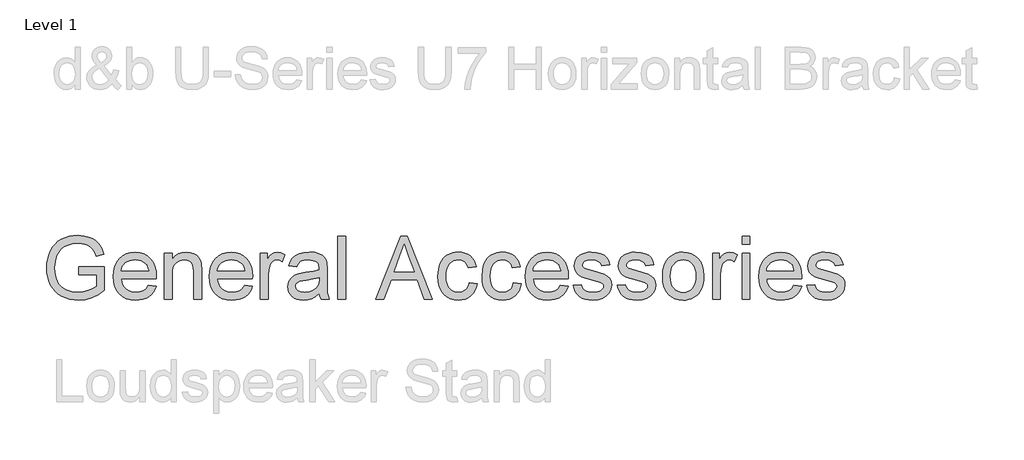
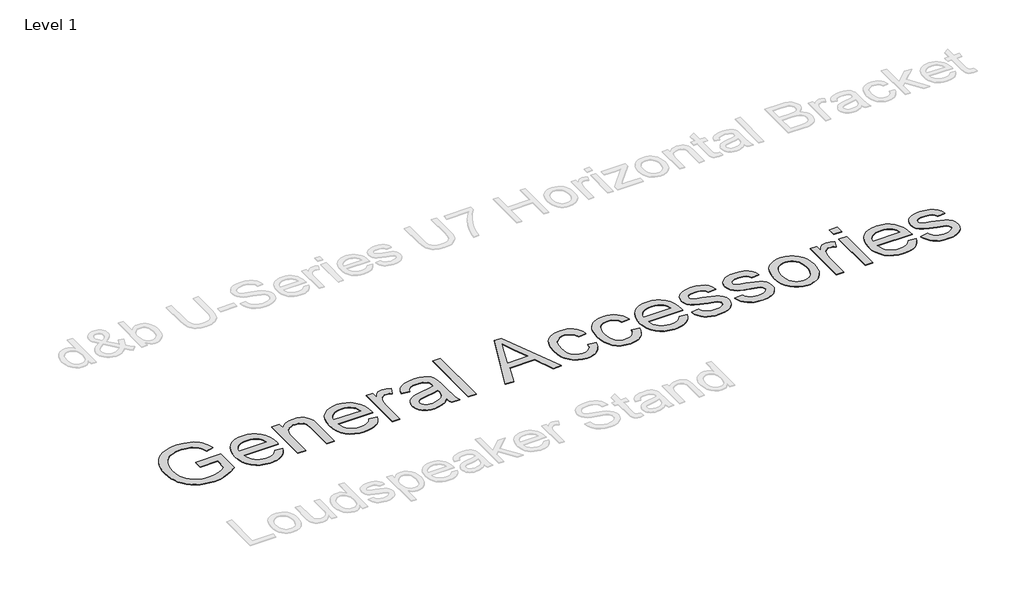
# One storey, part 2 of 29: 1 proxy.
"""IFC4 building model written with IfcOpenShell, lengths in millimetres."""

from ifc_helpers import new_model, si_unit, origin, origin_with_axes, place, context, project, spatial, polyline, outline, extrude, element, save

model = new_model("IFC4")

# Units and contexts
model_context = context("Model", 3, world=origin())
ifc_project = project(units=[si_unit("LENGTHUNIT", "METRE", prefix="MILLI")], contexts=[model_context])

# Site, building, storey
site = spatial("IfcSite", under=ifc_project)
building = spatial("IfcBuilding", under=site)
storey = spatial("IfcBuildingStorey", under=building, Name="Level 1", Elevation=0.0)

# Proxy
placement = place(None, origin())
element("IfcBuildingElementProxy", 1, Name="600mm Arial", ObjectType="600mm Arial", at=placement, inside=storey, context=model_context, shape_type="SweptSolid", body=[
    extrude(outline(polyline([(-20751.11155, -11618.054293), (-20751.11155, -11542.7120604), (-20506.2492941, -11542.7120604), (-20506.2492941, -11768.0029943), (-20565.7542068, -11809.3897187), (-20627.1353177, -11839.0777957), (-20690.2454739, -11856.9568607), (-20754.9375228, -11862.916549), (-20798.214241, -11860.5483087), (-20839.4584112, -11853.4435876), (-20878.6700334, -11841.6023859), (-20915.8491075, -11825.0247035), (-20949.7954186, -11803.9588608), (-20979.3087517, -11778.653178), (-21004.3891067, -11749.1076553), (-21025.0364837, -11715.3222926), (-21041.1635106, -11678.3777432), (-21052.6828156, -11639.3546605), (-21059.5943986, -11598.2530446), (-21061.8982596, -11555.0728955), (-21059.6035956, -11511.8881477), (-21052.7196038, -11470.1841251), (-21041.2462841, -11429.9608274), (-21025.1836365, -11391.2182548), (-21004.8167695, -11355.6578614), (-20980.4307917, -11324.9811016), (-20952.0257032, -11299.1879752), (-20919.6015038, -11278.2784823), (-20883.861768, -11262.1192656), (-20845.51007, -11250.576968), (-20804.5464098, -11243.6515895), (-20760.9707875, -11241.34313), (-20698.9090949, -11246.695813), (-20643.1013963, -11262.7538621), (-20618.1819896, -11274.5076918), (-20596.1044714, -11288.3584489), (-20576.8688416, -11304.3061334), (-20560.4751001, -11322.3507453), (-20534.1163552, -11366.367826), (-20514.9313091, -11422.046766), (-20584.3874298, -11441.6180881), (-20599.8936559, -11401.9052268), (-20618.7476082, -11371.9412383), (-20643.6900075, -11349.3532838), (-20677.4615746, -11331.7685244), (-20717.726259, -11320.456153), (-20762.1480099, -11316.6853626), (-20814.1481299, -11320.7504586), (-20858.606669, -11332.9457468), (-20895.3580804, -11351.7445167), (-20924.236817, -11375.6200582), (-20946.4017072, -11403.3399665), (-20963.0115793, -11433.671837), (-20980.669915, -11490.5463935), (-20986.556027, -11551.9826867), (-20984.7855949, -11589.6032192), (-20979.4742986, -11624.0323754), (-20970.622138, -11655.2701554), (-20958.2291133, -11683.316559), (-20942.4561728, -11708.0658202), (-20923.4642648, -11729.412173), (-20901.2533893, -11747.3556173), (-20875.8235464, -11761.8961531), (-20848.365754, -11773.1303496), (-20820.07103, -11781.1547756), (-20790.9393746, -11785.9694312), (-20760.9707875, -11787.5743164), (-20708.7867265, -11782.7366682), (-20657.8902525, -11768.2237235), (-20613.6892308, -11748.229337), (-20581.5915267, -11726.9473636), (-20581.5915267, -11618.054293), (-20751.11155, -11618.054293)])), origin_with_axes(), (0.0, 0.0, 1.0), 5.0),
    extrude(outline(polyline([(-20083.3321524, -11721.6498629), (-20009.4614478, -11731.0676419), (-20020.7876147, -11760.6545514), (-20036.0777101, -11786.7281878), (-20055.331734, -11809.2885512), (-20078.5496865, -11828.3356415), (-20105.4924441, -11843.4647885), (-20135.9208836, -11854.2713221), (-20169.835005, -11860.7552423), (-20207.2348084, -11862.916549), (-20253.9834129, -11859.1871453), (-20295.6368518, -11847.9989341), (-20332.1951251, -11829.3519155), (-20363.6582327, -11803.2460894), (-20388.9593169, -11770.4080228), (-20407.03152, -11731.5642826), (-20417.8748418, -11686.7148689), (-20421.4892824, -11635.8597816), (-20417.8380536, -11583.2802474), (-20406.8843672, -11536.9363131), (-20388.6282232, -11496.8279786), (-20363.0696215, -11462.9552439), (-20331.6892873, -11436.0446759), (-20295.9679456, -11416.8228417), (-20255.9055963, -11405.2897411), (-20211.5022395, -11401.4453743), (-20168.529024, -11405.2805441), (-20129.6668897, -11416.7860535), (-20094.9158367, -11435.9619025), (-20064.2758651, -11462.8080911), (-20039.2644879, -11496.6072494), (-20021.3992185, -11536.6420075), (-20010.6800569, -11582.9123654), (-20007.107003, -11635.4183232), (-20007.5484614, -11655.7254093), (-20346.1470498, -11655.7254093), (-20341.7830496, -11685.7905654), (-20333.105633, -11712.1217192), (-20320.1148001, -11734.7188707), (-20302.8105507, -11753.5820201), (-20282.1493782, -11768.4536497), (-20259.0877756, -11779.0762423), (-20233.625743, -11785.4497979), (-20205.7632804, -11787.5743164), (-20165.6641429, -11783.6379791), (-20131.8925758, -11771.828967), (-20104.4485789, -11751.4115163), (-20083.3321524, -11721.6498629)]), holes=[polyline([(-20346.1470498, -11580.3831767), (-20082.4492356, -11580.3831767), (-20092.6395669, -11540.5783448), (-20101.4043554, -11524.9249659), (-20112.6155592, -11512.1042784), (-20133.1617687, -11496.6532346), (-20156.5406694, -11485.6167748), (-20182.7522616, -11478.9948989), (-20211.7965451, -11476.7876069), (-20238.2886473, -11478.5488419), (-20262.5826546, -11483.8325471), (-20284.6785669, -11492.6387223), (-20304.5763843, -11504.9673677), (-20321.2736284, -11520.2482661), (-20333.7678206, -11537.9112004), (-20342.0589611, -11557.9561706), (-20346.1470498, -11580.3831767)])]), origin_with_axes(), (0.0, 0.0, 1.0), 5.0),
    extrude(outline(polyline([(-19931.7647704, -11853.4987699), (-19931.7647704, -11410.8631533), (-19856.4225378, -11410.8631533), (-19856.4225378, -11472.6673285), (-19830.2477338, -11441.5077235), (-19798.8122173, -11419.2508628), (-19762.1159883, -11405.8967464), (-19720.1590468, -11401.4453743), (-19683.0213594, -11405.0322237), (-19649.0106689, -11415.7927721), (-19620.6469671, -11432.3842501), (-19600.4502455, -11453.4638884), (-19586.7466412, -11478.9765048), (-19577.862291, -11508.8669169), (-19573.8891655, -11581.7075519), (-19573.8891655, -11853.4987699), (-19649.2313981, -11853.4987699), (-19649.2313981, -11591.861095), (-19651.4019019, -11552.9023917), (-19657.9134132, -11525.2008774), (-19669.9247603, -11505.3536438), (-19688.5947716, -11489.9577823), (-19712.5254954, -11480.0801507), (-19740.3189801, -11476.7876069), (-19763.1966417, -11478.6362139), (-19784.4464254, -11484.182035), (-19804.0683313, -11493.4250701), (-19822.0623594, -11506.3653193), (-19837.0949375, -11524.4743105), (-19847.8324932, -11549.2235717), (-19854.2750266, -11580.613103), (-19856.4225378, -11618.6429042), (-19856.4225378, -11853.4987699), (-19931.7647704, -11853.4987699)])), origin_with_axes(), (0.0, 0.0, 1.0), 5.0),
    extrude(outline(polyline([(-19160.3898029, -11721.6498629), (-19086.5190983, -11731.0676419), (-19097.8452652, -11760.6545514), (-19113.1353606, -11786.7281878), (-19132.3893845, -11809.2885512), (-19155.607337, -11828.3356415), (-19182.5500946, -11843.4647885), (-19212.9785341, -11854.2713221), (-19246.8926555, -11860.7552423), (-19284.2924589, -11862.916549), (-19331.0410634, -11859.1871453), (-19372.6945023, -11847.9989341), (-19409.2527756, -11829.3519155), (-19440.7158832, -11803.2460894), (-19466.0169674, -11770.4080228), (-19484.0891705, -11731.5642826), (-19494.9324923, -11686.7148689), (-19498.5469329, -11635.8597816), (-19494.8957041, -11583.2802474), (-19483.9420177, -11536.9363131), (-19465.6858737, -11496.8279786), (-19440.127272, -11462.9552439), (-19408.7469378, -11436.0446759), (-19373.0255961, -11416.8228417), (-19332.9632468, -11405.2897411), (-19288.55989, -11401.4453743), (-19245.5866745, -11405.2805441), (-19206.7245402, -11416.7860535), (-19171.9734872, -11435.9619025), (-19141.3335156, -11462.8080911), (-19116.3221384, -11496.6072494), (-19098.456869, -11536.6420075), (-19087.7377074, -11582.9123654), (-19084.1646535, -11635.4183232), (-19084.6061119, -11655.7254093), (-19423.2047003, -11655.7254093), (-19418.8407001, -11685.7905654), (-19410.1632835, -11712.1217192), (-19397.1724506, -11734.7188707), (-19379.8682012, -11753.5820201), (-19359.2070287, -11768.4536497), (-19336.1454261, -11779.0762423), (-19310.6833935, -11785.4497979), (-19282.8209309, -11787.5743164), (-19242.7217934, -11783.6379791), (-19208.9502263, -11771.828967), (-19181.5062294, -11751.4115163), (-19160.3898029, -11721.6498629)]), holes=[polyline([(-19423.2047003, -11580.3831767), (-19159.5068861, -11580.3831767), (-19169.6972174, -11540.5783448), (-19178.4620059, -11524.9249659), (-19189.6732097, -11512.1042784), (-19210.2194192, -11496.6532346), (-19233.5983199, -11485.6167748), (-19259.8099121, -11478.9948989), (-19288.8541956, -11476.7876069), (-19315.3462978, -11478.5488419), (-19339.6403051, -11483.8325471), (-19361.7362174, -11492.6387223), (-19381.6340348, -11504.9673677), (-19398.3312789, -11520.2482661), (-19410.8254711, -11537.9112004), (-19419.1166116, -11557.9561706), (-19423.2047003, -11580.3831767)])]), origin_with_axes(), (0.0, 0.0, 1.0), 5.0),
    extrude(outline(polyline([(-19008.8224209, -11853.4987699), (-19008.8224209, -11410.8631533), (-18942.8979674, -11410.8631533), (-18942.8979674, -11476.3461485), (-18918.5441793, -11438.3807266), (-18896.1033776, -11416.0135013), (-18873.5889995, -11405.087406), (-18849.0144822, -11401.4453743), (-18811.4905187, -11407.2579098), (-18773.377944, -11424.6955164), (-18798.5410724, -11492.2386507), (-18825.0285761, -11480.6503678), (-18851.5160798, -11476.7876069), (-18874.0120638, -11480.503215), (-18894.1168148, -11491.6500395), (-18910.3588049, -11509.3819517), (-18921.266506, -11532.8528229), (-18930.4267677, -11574.9385232), (-18933.4801883, -11620.8501962), (-18933.4801883, -11853.4987699), (-19008.8224209, -11853.4987699)])), origin_with_axes(), (0.0, 0.0, 1.0), 5.0),
    extrude(outline(polyline([(-18443.7556763, -11796.9920955), (-18479.7529295, -11827.8573949), (-18516.8170405, -11848.0541164), (-18555.7941379, -11859.2009409), (-18597.5303503, -11862.916549), (-18631.0765897, -11860.6816659), (-18660.4933538, -11853.9770165), (-18685.7806424, -11842.8026009), (-18706.9384557, -11827.1584191), (-18723.6448968, -11808.0377524), (-18735.578069, -11786.4338822), (-18742.7379723, -11762.3468086), (-18745.1246067, -11735.7765315), (-18741.5193632, -11704.5433501), (-18730.7036325, -11676.1796483), (-18714.0201841, -11651.8994366), (-18692.811787, -11632.9167256), (-18667.8877819, -11618.5693278), (-18640.0575089, -11608.1950556), (-18574.8688194, -11596.8642901), (-18497.8343296, -11584.9449135), (-18444.1971347, -11570.9653976), (-18443.7556763, -11554.1899787), (-18448.9428124, -11520.5655643), (-18455.4267326, -11508.1127588), (-18464.5042208, -11498.566221), (-18480.1943879, -11489.0380773), (-18499.3058576, -11482.2322604), (-18547.7927045, -11476.7876069), (-18592.6743079, -11480.4112445), (-18624.0178539, -11491.2821575), (-18645.3917979, -11511.3869085), (-18660.3645951, -11542.7120604), (-18735.7068277, -11533.2942813), (-18722.6286227, -11492.0914979), (-18703.1124829, -11459.7178823), (-18675.3373923, -11434.959424), (-18637.482335, -11416.6021125), (-18591.1843859, -11405.2345588), (-18538.0806199, -11401.4453743), (-18487.1473576, -11404.7931004), (-18446.7723087, -11414.8362789), (-18416.3300736, -11429.9378348), (-18395.1952529, -11448.4606933), (-18381.1789489, -11471.3613475), (-18372.0922636, -11499.5962906), (-18368.4134437, -11565.5207441), (-18368.4134437, -11659.2570765), (-18364.5874709, -11790.1494904), (-18358.9220882, -11822.5047118), (-18349.5778855, -11853.4987699), (-18424.9201181, -11853.4987699), (-18436.9866476, -11827.3055719), (-18443.7556763, -11796.9920955)]), holes=[polyline([(-18443.7556763, -11646.3076303), (-18494.3762388, -11658.8524063), (-18565.3038875, -11669.4106196), (-18630.1246951, -11681.6243018), (-18646.9920845, -11689.9752231), (-18659.4816783, -11701.4899295), (-18667.2072002, -11715.2855044), (-18669.7823741, -11730.4790308), (-18664.1721737, -11752.8830443), (-18647.3415724, -11771.2403558), (-18619.6584523, -11783.4908263), (-18581.4906953, -11787.5743164), (-18541.0236758, -11783.067762), (-18505.2655459, -11769.5480986), (-18476.2764447, -11749.6272886), (-18456.1165113, -11725.917294), (-18447.1769789, -11701.4899295), (-18444.1971347, -11667.644786), (-18443.7556763, -11646.3076303)])]), origin_with_axes(), (0.0, 0.0, 1.0), 5.0),
    extrude(outline(polyline([(-18264.8178738, -11853.4987699), (-18264.8178738, -11250.760909), (-18189.4756412, -11250.760909), (-18189.4756412, -11853.4987699), (-18264.8178738, -11853.4987699)])), origin_with_axes(), (0.0, 0.0, 1.0), 5.0),
    extrude(outline(polyline([(-17901.6447682, -11853.4987699), (-17661.0499434, -11250.760909), (-17596.8913234, -11250.760909), (-17356.4436514, -11853.4987699), (-17436.0533151, -11853.4987699), (-17504.9208246, -11665.1431884), (-17753.3147478, -11665.1431884), (-17822.1822573, -11853.4987699), (-17901.6447682, -11853.4987699)]), holes=[polyline([(-17725.6500217, -11589.8009558), (-17532.4383978, -11589.8009558), (-17586.8849331, -11441.6180881), (-17629.1177862, -11326.1031417), (-17666.6417497, -11428.6686419), (-17725.6500217, -11589.8009558)])]), origin_with_axes(), (0.0, 0.0, 1.0), 5.0),
    extrude(outline(polyline([(-17002.8354776, -11693.3965256), (-16927.493245, -11702.8143047), (-16935.6878164, -11738.365501), (-16948.4993069, -11769.8240101), (-16965.9277164, -11797.1898321), (-16987.973045, -11820.4629668), (-17013.7063906, -11839.036409), (-17042.1988511, -11852.3031535), (-17073.4504266, -11860.2632001), (-17107.461117, -11862.916549), (-17149.7169627, -11859.2147364), (-17187.6042097, -11848.1092987), (-17221.122858, -11829.6002358), (-17250.2729075, -11803.6875478), (-17273.867939, -11770.8586782), (-17290.7215329, -11731.6010708), (-17300.8336893, -11685.9147256), (-17304.204408, -11633.7996424), (-17298.4470548, -11566.7531488), (-17291.2503633, -11536.5822267), (-17281.1749951, -11508.6461877), (-17268.1519725, -11483.5060518), (-17252.1123175, -11461.7228392), (-17233.0560302, -11443.2965497), (-17210.9831105, -11428.2271835), (-17186.8914383, -11416.510142), (-17161.7788936, -11408.1408266), (-17135.6454764, -11403.1192373), (-17108.4911866, -11401.4453743), (-17075.0645088, -11403.7446367), (-17044.8292073, -11410.6424241), (-17017.7852822, -11422.1387365), (-16993.9327333, -11438.2335738), (-16973.6762309, -11458.559054), (-16957.4204453, -11482.7472952), (-16945.1653763, -11510.7982973), (-16936.9110241, -11542.7120604), (-17012.2532567, -11552.1298395), (-17025.9200728, -11519.2595832), (-17047.2020462, -11495.6967414), (-17074.9219545, -11481.5148905), (-17107.9025754, -11476.7876069), (-17133.5025638, -11479.1144605), (-17156.5917575, -11486.0950214), (-17177.1701566, -11497.7292895), (-17195.2377611, -11514.0172648), (-17209.9484424, -11535.3360264), (-17220.4560718, -11562.0626534), (-17226.7606495, -11594.1971456), (-17228.8621754, -11631.7395032), (-17226.8066348, -11669.8474794), (-17220.6400128, -11702.3544522), (-17210.3623096, -11729.2604216), (-17195.9735251, -11750.5653877), (-17178.2646055, -11766.756794), (-17158.0264973, -11778.3220842), (-17135.2592003, -11785.2612584), (-17109.9627146, -11787.5743164), (-17070.948829, -11781.7985691), (-17054.076841, -11774.5788849), (-17038.9614895, -11764.4713271), (-17026.0258389, -11751.365531), (-17015.6929533, -11735.1511321), (-17007.9628329, -11715.8281303), (-17002.8354776, -11693.3965256)])), origin_with_axes(), (0.0, 0.0, 1.0), 5.0),
    extrude(outline(polyline([(-16579.0354191, -11693.3965256), (-16503.6931865, -11702.8143047), (-16511.887758, -11738.365501), (-16524.6992485, -11769.8240101), (-16542.127658, -11797.1898321), (-16564.1729865, -11820.4629668), (-16589.9063321, -11839.036409), (-16618.3987926, -11852.3031535), (-16649.6503681, -11860.2632001), (-16683.6610586, -11862.916549), (-16725.9169042, -11859.2147364), (-16763.8041512, -11848.1092987), (-16797.3227995, -11829.6002358), (-16826.4728491, -11803.6875478), (-16850.0678806, -11770.8586782), (-16866.9214745, -11731.6010708), (-16877.0336308, -11685.9147256), (-16880.4043496, -11633.7996424), (-16874.6469964, -11566.7531488), (-16867.4503048, -11536.5822267), (-16857.3749367, -11508.6461877), (-16844.3519141, -11483.5060518), (-16828.3122591, -11461.7228392), (-16809.2559717, -11443.2965497), (-16787.183052, -11428.2271835), (-16763.0913799, -11416.510142), (-16737.9788352, -11408.1408266), (-16711.8454179, -11403.1192373), (-16684.6911282, -11401.4453743), (-16651.2644504, -11403.7446367), (-16621.0291489, -11410.6424241), (-16593.9852237, -11422.1387365), (-16570.1326749, -11438.2335738), (-16549.8761725, -11458.559054), (-16533.6203868, -11482.7472952), (-16521.3653179, -11510.7982973), (-16513.1109656, -11542.7120604), (-16588.4531982, -11552.1298395), (-16602.1200143, -11519.2595832), (-16623.4019878, -11495.6967414), (-16651.1218961, -11481.5148905), (-16684.102517, -11476.7876069), (-16709.7025053, -11479.1144605), (-16732.791699, -11486.0950214), (-16753.3700981, -11497.7292895), (-16771.4377026, -11514.0172648), (-16786.1483839, -11535.3360264), (-16796.6560134, -11562.0626534), (-16802.9605911, -11594.1971456), (-16805.062117, -11631.7395032), (-16803.0065763, -11669.8474794), (-16796.8399544, -11702.3544522), (-16786.5622512, -11729.2604216), (-16772.1734666, -11750.5653877), (-16754.4645471, -11766.756794), (-16734.2264388, -11778.3220842), (-16711.4591418, -11785.2612584), (-16686.1626561, -11787.5743164), (-16647.1487706, -11781.7985691), (-16630.2767826, -11774.5788849), (-16615.1614311, -11764.4713271), (-16602.2257804, -11751.365531), (-16591.8928949, -11735.1511321), (-16584.1627745, -11715.8281303), (-16579.0354191, -11693.3965256)])), origin_with_axes(), (0.0, 0.0, 1.0), 5.0),
    extrude(outline(polyline([(-16127.8649403, -11721.6498629), (-16053.9942356, -11731.0676419), (-16065.3204026, -11760.6545514), (-16080.610498, -11786.7281878), (-16099.8645219, -11809.2885512), (-16123.0824743, -11828.3356415), (-16150.0252319, -11843.4647885), (-16180.4536715, -11854.2713221), (-16214.3677929, -11860.7552423), (-16251.7675962, -11862.916549), (-16298.5162008, -11859.1871453), (-16340.1696397, -11847.9989341), (-16376.727913, -11829.3519155), (-16408.1910206, -11803.2460894), (-16433.4921048, -11770.4080228), (-16451.5643078, -11731.5642826), (-16462.4076296, -11686.7148689), (-16466.0220702, -11635.8597816), (-16462.3708414, -11583.2802474), (-16451.417155, -11536.9363131), (-16433.161011, -11496.8279786), (-16407.6024094, -11462.9552439), (-16376.2220752, -11436.0446759), (-16340.5007335, -11416.8228417), (-16300.4383842, -11405.2897411), (-16256.0350274, -11401.4453743), (-16213.0618118, -11405.2805441), (-16174.1996776, -11416.7860535), (-16139.4486246, -11435.9619025), (-16108.8086529, -11462.8080911), (-16083.7972758, -11496.6072494), (-16065.9320064, -11536.6420075), (-16055.2128447, -11582.9123654), (-16051.6397909, -11635.4183232), (-16052.0812493, -11655.7254093), (-16390.6798376, -11655.7254093), (-16386.3158375, -11685.7905654), (-16377.6384209, -11712.1217192), (-16364.6475879, -11734.7188707), (-16347.3433386, -11753.5820201), (-16326.682166, -11768.4536497), (-16303.6205635, -11779.0762423), (-16278.1585309, -11785.4497979), (-16250.2960683, -11787.5743164), (-16210.1969308, -11783.6379791), (-16176.4253636, -11771.828967), (-16148.9813668, -11751.4115163), (-16127.8649403, -11721.6498629)]), holes=[polyline([(-16390.6798376, -11580.3831767), (-16126.9820235, -11580.3831767), (-16137.1723547, -11540.5783448), (-16145.9371433, -11524.9249659), (-16157.1483471, -11512.1042784), (-16177.6945565, -11496.6532346), (-16201.0734573, -11485.6167748), (-16227.2850495, -11478.9948989), (-16256.329333, -11476.7876069), (-16282.8214352, -11478.5488419), (-16307.1154424, -11483.8325471), (-16329.2113547, -11492.6387223), (-16349.1091722, -11504.9673677), (-16365.8064162, -11520.2482661), (-16378.3006085, -11537.9112004), (-16386.5917489, -11557.9561706), (-16390.6798376, -11580.3831767)])]), origin_with_axes(), (0.0, 0.0, 1.0), 5.0),
    extrude(outline(polyline([(-16004.5508955, -11721.6498629), (-15929.2086629, -11712.2320838), (-15924.6561232, -11729.412173), (-15917.3260744, -11744.4585466), (-15907.2185166, -11757.3712046), (-15894.3334497, -11768.1501471), (-15878.6340856, -11776.6482211), (-15860.083636, -11782.7182741), (-15814.4294804, -11787.5743164), (-15769.3271478, -11783.1229443), (-15751.7975707, -11777.5587291), (-15737.6157198, -11769.7688278), (-15718.853738, -11750.4182349), (-15714.1632426, -11739.5841101), (-15712.5997441, -11727.9774332), (-15714.1724396, -11717.805496), (-15718.8905262, -11708.773993), (-15737.7628726, -11694.1322896), (-15765.9794216, -11684.5673578), (-15815.3123972, -11672.6479811), (-15884.0695421, -11652.7639593), (-15928.7672045, -11635.7862052), (-15957.4803942, -11617.2633467), (-15978.284121, -11592.7440118), (-15990.9208676, -11563.7916987), (-15995.1331164, -11531.9699062), (-15991.748602, -11502.7784698), (-15981.595059, -11475.8311137), (-15965.5921922, -11452.1946955), (-15944.6597067, -11432.9360731), (-15923.8559798, -11420.8143613), (-15896.7614709, -11410.6424241), (-15865.436319, -11403.7446367), (-15831.9406633, -11401.4453743), (-15782.9019934, -11405.1425883), (-15740.2644701, -11416.2342305), (-15705.9778682, -11433.6350488), (-15681.9919621, -11456.2597915), (-15666.0994599, -11485.7823217), (-15656.0930696, -11523.8765023), (-15731.4353023, -11533.2942813), (-15740.9450518, -11509.5842867), (-15759.7622159, -11491.7236159), (-15788.0707354, -11480.5216091), (-15826.0545514, -11476.7876069), (-15869.3174741, -11480.3560622), (-15898.1594225, -11491.0614283), (-15914.3830185, -11506.5124721), (-15919.7908838, -11524.3179607), (-15917.5468036, -11535.9062435), (-15910.8145631, -11546.2437276), (-15899.2998567, -11555.4775656), (-15882.7083787, -11562.8719938), (-15817.8139947, -11578.9116487), (-15707.228667, -11614.3754731), (-15678.0188366, -11631.3348331), (-15655.8723405, -11654.5481869), (-15641.9112187, -11684.0891112), (-15637.2575115, -11720.0311821), (-15642.7205591, -11757.1872636), (-15659.109702, -11792.1360531), (-15685.7995408, -11822.1368299), (-15722.164676, -11844.4488729), (-15766.0897862, -11858.29963), (-15815.45955, -11862.916549), (-15856.0093429, -11860.6908629), (-15891.427182, -11854.0138047), (-15921.7130672, -11842.8853744), (-15946.8669986, -11827.3055719), (-15967.4132081, -11807.3479736), (-15983.8759274, -11783.0861561), (-15996.2551565, -11754.5201191), (-16004.5508955, -11721.6498629)])), origin_with_axes(), (0.0, 0.0, 1.0), 5.0),
    extrude(outline(polyline([(-15580.750837, -11721.6498629), (-15505.4086044, -11712.2320838), (-15500.8560647, -11729.412173), (-15493.526016, -11744.4585466), (-15483.4184582, -11757.3712046), (-15470.5333913, -11768.1501471), (-15454.8340271, -11776.6482211), (-15436.2835775, -11782.7182741), (-15390.6294219, -11787.5743164), (-15345.5270893, -11783.1229443), (-15327.9975123, -11777.5587291), (-15313.8156613, -11769.7688278), (-15295.0536796, -11750.4182349), (-15290.3631841, -11739.5841101), (-15288.7996857, -11727.9774332), (-15290.3723812, -11717.805496), (-15295.0904678, -11708.773993), (-15313.9628141, -11694.1322896), (-15342.1793632, -11684.5673578), (-15391.5123387, -11672.6479811), (-15460.2694836, -11652.7639593), (-15504.967146, -11635.7862052), (-15533.6803358, -11617.2633467), (-15554.4840626, -11592.7440118), (-15567.1208091, -11563.7916987), (-15571.333058, -11531.9699062), (-15567.9485436, -11502.7784698), (-15557.7950005, -11475.8311137), (-15541.7921337, -11452.1946955), (-15520.8596482, -11432.9360731), (-15500.0559214, -11420.8143613), (-15472.9614125, -11410.6424241), (-15441.6362606, -11403.7446367), (-15408.1406049, -11401.4453743), (-15359.1019349, -11405.1425883), (-15316.4644117, -11416.2342305), (-15282.1778098, -11433.6350488), (-15258.1919037, -11456.2597915), (-15242.2994015, -11485.7823217), (-15232.2930112, -11523.8765023), (-15307.6352438, -11533.2942813), (-15317.1449934, -11509.5842867), (-15335.9621574, -11491.7236159), (-15364.270677, -11480.5216091), (-15402.254493, -11476.7876069), (-15445.5174156, -11480.3560622), (-15474.359364, -11491.0614283), (-15490.58296, -11506.5124721), (-15495.9908253, -11524.3179607), (-15493.7467452, -11535.9062435), (-15487.0145047, -11546.2437276), (-15475.4997982, -11555.4775656), (-15458.9083202, -11562.8719938), (-15394.0139363, -11578.9116487), (-15283.4286085, -11614.3754731), (-15254.2187781, -11631.3348331), (-15232.072282, -11654.5481869), (-15218.1111603, -11684.0891112), (-15213.4574531, -11720.0311821), (-15218.9205007, -11757.1872636), (-15235.3096436, -11792.1360531), (-15261.9994823, -11822.1368299), (-15298.3646175, -11844.4488729), (-15342.2897278, -11858.29963), (-15391.6594915, -11862.916549), (-15432.2092844, -11860.6908629), (-15467.6271235, -11854.0138047), (-15497.9130088, -11842.8853744), (-15523.0669402, -11827.3055719), (-15543.6131496, -11807.3479736), (-15560.0758689, -11783.0861561), (-15572.455098, -11754.5201191), (-15580.750837, -11721.6498629)])), origin_with_axes(), (0.0, 0.0, 1.0), 5.0),
    extrude(outline(polyline([(-15147.5329995, -11632.1809616), (-15143.4587064, -11574.8557497), (-15131.2358271, -11525.4583948), (-15110.8643616, -11483.9888969), (-15082.34431, -11450.447256), (-15053.6311202, -11429.0089328), (-15021.9380864, -11413.6958447), (-14987.2652083, -11404.5079919), (-14949.6124861, -11401.4453743), (-14908.0464192, -11405.174778), (-14870.4626748, -11416.3629892), (-14836.8612531, -11435.0100078), (-14807.242154, -11461.1158339), (-14783.0677084, -11493.7975506), (-14765.8002472, -11532.1722413), (-14755.4397705, -11576.2399058), (-14751.9862783, -11626.0005441), (-14753.5129886, -11666.3296078), (-14758.0931194, -11702.1153289), (-14765.7266708, -11733.3577074), (-14776.4136428, -11760.0567432), (-14790.0206781, -11783.1183457), (-14806.4144195, -11803.4484245), (-14825.594867, -11821.0469794), (-14847.5620206, -11835.9140106), (-14871.4605548, -11847.7276211), (-14896.4351437, -11856.1659144), (-14922.4857875, -11861.2288904), (-14949.6124861, -11862.916549), (-14991.7855583, -11859.2009409), (-15029.7187906, -11848.0541164), (-15063.4121828, -11829.4760757), (-15092.865735, -11803.4668186), (-15116.7826632, -11770.4678036), (-15133.8661834, -11730.9204891), (-15144.1162955, -11684.8248752), (-15147.5329995, -11632.1809616)]), holes=[polyline([(-15072.1907669, -11632.0338088), (-15070.0110661, -11668.5782865), (-15063.4719636, -11700.2207367), (-15052.5734595, -11726.9611592), (-15037.3155538, -11748.7995541), (-15018.7559071, -11765.7635126), (-14997.9521803, -11777.8806258), (-14974.9043733, -11785.1508938), (-14949.6124861, -11787.5743164), (-14924.4493576, -11785.1370982), (-14901.4935211, -11777.8254435), (-14880.7449766, -11765.6393524), (-14862.2037241, -11748.5788249), (-14846.9458183, -11726.5242993), (-14836.0473142, -11699.356214), (-14829.5082117, -11667.0745689), (-14827.3285109, -11629.6793641), (-14829.5220073, -11594.2937147), (-14836.1024965, -11563.478999), (-14847.0699785, -11537.2352172), (-14862.4244533, -11515.5623692), (-14881.0346837, -11498.5984107), (-14901.7694326, -11486.4812975), (-14924.6287001, -11479.2110295), (-14949.6124861, -11476.7876069), (-14974.9043733, -11479.2018325), (-14997.9521803, -11486.4445093), (-15018.7559071, -11498.5156372), (-15037.3155538, -11515.4152164), (-15052.5734595, -11537.189232), (-15063.4719636, -11563.8836692), (-15070.0110661, -11595.4985282), (-15072.1907669, -11632.0338088)])]), origin_with_axes(), (0.0, 0.0, 1.0), 5.0),
    extrude(outline(polyline([(-14667.2262666, -11853.4987699), (-14667.2262666, -11410.8631533), (-14601.3018131, -11410.8631533), (-14601.3018131, -11476.3461485), (-14576.948025, -11438.3807266), (-14554.5072233, -11416.0135013), (-14531.9928452, -11405.087406), (-14507.4183279, -11401.4453743), (-14469.8943644, -11407.2579098), (-14431.7817897, -11424.6955164), (-14456.9449182, -11492.2386507), (-14483.4324218, -11480.6503678), (-14509.9199255, -11476.7876069), (-14532.4159095, -11480.503215), (-14552.5206605, -11491.6500395), (-14568.7626506, -11509.3819517), (-14579.6703518, -11532.8528229), (-14588.8306134, -11574.9385232), (-14591.884034, -11620.8501962), (-14591.884034, -11853.4987699), (-14667.2262666, -11853.4987699)])), origin_with_axes(), (0.0, 0.0, 1.0), 5.0),
    extrude(outline(polyline([(-14384.6928943, -11853.4987699), (-14384.6928943, -11410.8631533), (-14309.3506617, -11410.8631533), (-14309.3506617, -11853.4987699), (-14384.6928943, -11853.4987699)])), origin_with_axes(), (0.0, 0.0, 1.0), 5.0),
    extrude(outline(polyline([(-14384.6928943, -11326.1031417), (-14384.6928943, -11250.760909), (-14309.3506617, -11250.760909), (-14309.3506617, -11326.1031417), (-14384.6928943, -11326.1031417)])), origin_with_axes(), (0.0, 0.0, 1.0), 5.0),
    extrude(outline(polyline([(-13886.4335201, -11721.6498629), (-13812.5628154, -11731.0676419), (-13823.8889823, -11760.6545514), (-13839.1790778, -11786.7281878), (-13858.4331017, -11809.2885512), (-13881.6510541, -11828.3356415), (-13908.5938117, -11843.4647885), (-13939.0222513, -11854.2713221), (-13972.9363727, -11860.7552423), (-14010.336176, -11862.916549), (-14057.0847806, -11859.1871453), (-14098.7382195, -11847.9989341), (-14135.2964927, -11829.3519155), (-14166.7596004, -11803.2460894), (-14192.0606846, -11770.4080228), (-14210.1328876, -11731.5642826), (-14220.9762094, -11686.7148689), (-14224.59065, -11635.8597816), (-14220.9394212, -11583.2802474), (-14209.9857348, -11536.9363131), (-14191.7295908, -11496.8279786), (-14166.1709892, -11462.9552439), (-14134.790655, -11436.0446759), (-14099.0693133, -11416.8228417), (-14059.006964, -11405.2897411), (-14014.6036072, -11401.4453743), (-13971.6303916, -11405.2805441), (-13932.7682573, -11416.7860535), (-13898.0172044, -11435.9619025), (-13867.3772327, -11462.8080911), (-13842.3658556, -11496.6072494), (-13824.5005862, -11536.6420075), (-13813.7814245, -11582.9123654), (-13810.2083707, -11635.4183232), (-13810.649829, -11655.7254093), (-14149.2484174, -11655.7254093), (-14144.8844172, -11685.7905654), (-14136.2070007, -11712.1217192), (-14123.2161677, -11734.7188707), (-14105.9119184, -11753.5820201), (-14085.2507458, -11768.4536497), (-14062.1891432, -11779.0762423), (-14036.7271107, -11785.4497979), (-14008.864648, -11787.5743164), (-13968.7655106, -11783.6379791), (-13934.9939434, -11771.828967), (-13907.5499466, -11751.4115163), (-13886.4335201, -11721.6498629)]), holes=[polyline([(-14149.2484174, -11580.3831767), (-13885.5506033, -11580.3831767), (-13895.7409345, -11540.5783448), (-13904.5057231, -11524.9249659), (-13915.7169269, -11512.1042784), (-13936.2631363, -11496.6532346), (-13959.6420371, -11485.6167748), (-13985.8536292, -11478.9948989), (-14014.8979128, -11476.7876069), (-14041.3900149, -11478.5488419), (-14065.6840222, -11483.8325471), (-14087.7799345, -11492.6387223), (-14107.677752, -11504.9673677), (-14124.374996, -11520.2482661), (-14136.8691883, -11537.9112004), (-14145.1603287, -11557.9561706), (-14149.2484174, -11580.3831767)])]), origin_with_axes(), (0.0, 0.0, 1.0), 5.0),
    extrude(outline(polyline([(-13763.1194753, -11721.6498629), (-13687.7772427, -11712.2320838), (-13683.224703, -11729.412173), (-13675.8946542, -11744.4585466), (-13665.7870964, -11757.3712046), (-13652.9020295, -11768.1501471), (-13637.2026654, -11776.6482211), (-13618.6522158, -11782.7182741), (-13572.9980602, -11787.5743164), (-13527.8957276, -11783.1229443), (-13510.3661505, -11777.5587291), (-13496.1842996, -11769.7688278), (-13477.4223178, -11750.4182349), (-13472.7318224, -11739.5841101), (-13471.1683239, -11727.9774332), (-13472.7410194, -11717.805496), (-13477.459106, -11708.773993), (-13496.3314524, -11694.1322896), (-13524.5480014, -11684.5673578), (-13573.8809769, -11672.6479811), (-13642.6381218, -11652.7639593), (-13687.3357843, -11635.7862052), (-13716.048974, -11617.2633467), (-13736.8527008, -11592.7440118), (-13749.4894473, -11563.7916987), (-13753.7016962, -11531.9699062), (-13750.3171818, -11502.7784698), (-13740.1636388, -11475.8311137), (-13724.160772, -11452.1946955), (-13703.2282865, -11432.9360731), (-13682.4245596, -11420.8143613), (-13655.3300507, -11410.6424241), (-13624.0048988, -11403.7446367), (-13590.5092431, -11401.4453743), (-13541.4705732, -11405.1425883), (-13498.8330499, -11416.2342305), (-13464.546448, -11433.6350488), (-13440.5605419, -11456.2597915), (-13424.6680397, -11485.7823217), (-13414.6616494, -11523.8765023), (-13490.003882, -11533.2942813), (-13499.5136316, -11509.5842867), (-13518.3307957, -11491.7236159), (-13546.6393152, -11480.5216091), (-13584.6231312, -11476.7876069), (-13627.8860538, -11480.3560622), (-13656.7280023, -11491.0614283), (-13672.9515982, -11506.5124721), (-13678.3594636, -11524.3179607), (-13676.1153834, -11535.9062435), (-13669.3831429, -11546.2437276), (-13657.8684364, -11555.4775656), (-13641.2769585, -11562.8719938), (-13576.3825745, -11578.9116487), (-13465.7972468, -11614.3754731), (-13436.5874163, -11631.3348331), (-13414.4409202, -11654.5481869), (-13400.4797985, -11684.0891112), (-13395.8260913, -11720.0311821), (-13401.2891389, -11757.1872636), (-13417.6782818, -11792.1360531), (-13444.3681205, -11822.1368299), (-13480.7332558, -11844.4488729), (-13524.658366, -11858.29963), (-13574.0281297, -11862.916549), (-13614.5779227, -11860.6908629), (-13649.9957618, -11854.0138047), (-13680.281647, -11842.8853744), (-13705.4355784, -11827.3055719), (-13725.9817879, -11807.3479736), (-13742.4445071, -11783.0861561), (-13754.8237363, -11754.5201191), (-13763.1194753, -11721.6498629)])), origin_with_axes(), (0.0, 0.0, 1.0), 5.0),
])

save(model, "model.ifc")
